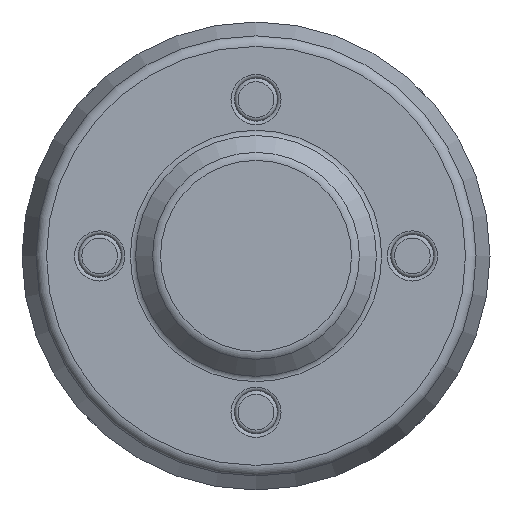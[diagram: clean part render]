
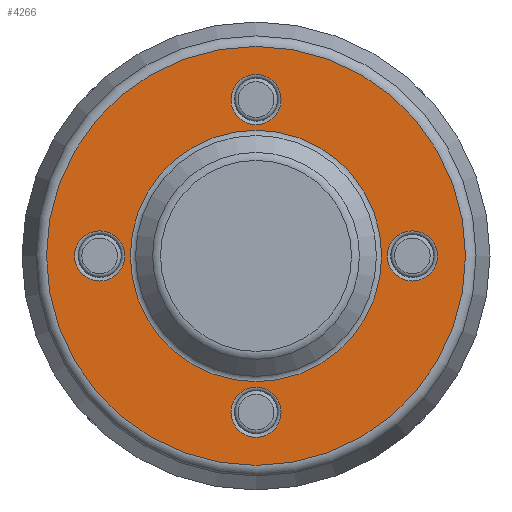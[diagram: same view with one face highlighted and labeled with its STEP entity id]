
A CAD part, top view. The second image highlights one B-rep face of the part: STEP entity #4266.
In plain terms, the highlighted planar face has unit normal (0, 0, 1).
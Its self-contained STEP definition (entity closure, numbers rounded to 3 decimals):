
#4266=ADVANCED_FACE('',(#11642,#11644,#11646,#11648,#11650,#11652),#11654,.T.);
#11642=FACE_BOUND('',#11643,.T.);
#11643=EDGE_LOOP('',(#85145));
#11644=FACE_BOUND('',#11645,.T.);
#11645=EDGE_LOOP('',(#85146));
#11646=FACE_BOUND('',#11647,.T.);
#11647=EDGE_LOOP('',(#85147));
#11648=FACE_BOUND('',#11649,.T.);
#11649=EDGE_LOOP('',(#85148));
#11650=FACE_BOUND('',#11651,.T.);
#11651=EDGE_LOOP('',(#85149));
#11652=FACE_BOUND('',#11653,.T.);
#11653=EDGE_LOOP('',(#85150));
#11654=PLANE('',#11655);
#11655=AXIS2_PLACEMENT_3D('',#11656,#11657,#11658);
#11656=CARTESIAN_POINT('',(0.,0.,-12.));
#11657=DIRECTION('',(0.,0.,1.));
#11658=DIRECTION('',(-1.,0.,0.));
#85145=ORIENTED_EDGE('',*,*,#90319,.F.);
#85146=ORIENTED_EDGE('',*,*,#90320,.F.);
#85147=ORIENTED_EDGE('',*,*,#90321,.F.);
#85148=ORIENTED_EDGE('',*,*,#90322,.T.);
#85149=ORIENTED_EDGE('',*,*,#90323,.F.);
#85150=ORIENTED_EDGE('',*,*,#90324,.F.);
#90319=EDGE_CURVE('',#94884,#94884,#94885,.T.);
#90320=EDGE_CURVE('',#94886,#94886,#94887,.F.);
#90321=EDGE_CURVE('',#94888,#94888,#94889,.F.);
#90322=EDGE_CURVE('',#94890,#94890,#94891,.T.);
#90323=EDGE_CURVE('',#94892,#94892,#94893,.F.);
#90324=EDGE_CURVE('',#94894,#94894,#94895,.F.);
#94884=VERTEX_POINT('',#120345);
#94885=CIRCLE('',#120346,111.918);
#94886=VERTEX_POINT('',#120350);
#94887=CIRCLE('',#120351,13.4);
#94888=VERTEX_POINT('',#120355);
#94889=CIRCLE('',#120356,13.4);
#94890=VERTEX_POINT('',#120360);
#94891=CIRCLE('',#120361,67.157);
#94892=VERTEX_POINT('',#120365);
#94893=CIRCLE('',#120366,13.4);
#94894=VERTEX_POINT('',#120370);
#94895=CIRCLE('',#120371,13.4);
#120345=CARTESIAN_POINT('',(-111.918,0.,-12.));
#120346=AXIS2_PLACEMENT_3D('',#120347,#120348,#120349);
#120347=CARTESIAN_POINT('',(0.,0.,-12.));
#120348=DIRECTION('',(0.,0.,-1.));
#120349=DIRECTION('',(-1.,0.,0.));
#120350=CARTESIAN_POINT('',(0.,96.9,-12.));
#120351=AXIS2_PLACEMENT_3D('',#120352,#120353,#120354);
#120352=CARTESIAN_POINT('',(0.,83.5,-12.));
#120353=DIRECTION('',(0.,0.,-1.));
#120354=DIRECTION('',(0.,1.,0.));
#120355=CARTESIAN_POINT('',(0.,-96.9,-12.));
#120356=AXIS2_PLACEMENT_3D('',#120357,#120358,#120359);
#120357=CARTESIAN_POINT('',(0.,-83.5,-12.));
#120358=DIRECTION('',(0.,0.,-1.));
#120359=DIRECTION('',(0.,-1.,0.));
#120360=CARTESIAN_POINT('',(-67.157,0.,-12.));
#120361=AXIS2_PLACEMENT_3D('',#120362,#120363,#120364);
#120362=CARTESIAN_POINT('',(0.,0.,-12.));
#120363=DIRECTION('',(0.,0.,-1.));
#120364=DIRECTION('',(-1.,0.,0.));
#120365=CARTESIAN_POINT('',(-96.9,0.,-12.));
#120366=AXIS2_PLACEMENT_3D('',#120367,#120368,#120369);
#120367=CARTESIAN_POINT('',(-83.5,0.,-12.));
#120368=DIRECTION('',(0.,0.,-1.));
#120369=DIRECTION('',(-1.,0.,0.));
#120370=CARTESIAN_POINT('',(96.9,0.,-12.));
#120371=AXIS2_PLACEMENT_3D('',#120372,#120373,#120374);
#120372=CARTESIAN_POINT('',(83.5,0.,-12.));
#120373=DIRECTION('',(0.,0.,-1.));
#120374=DIRECTION('',(1.,0.,0.));
